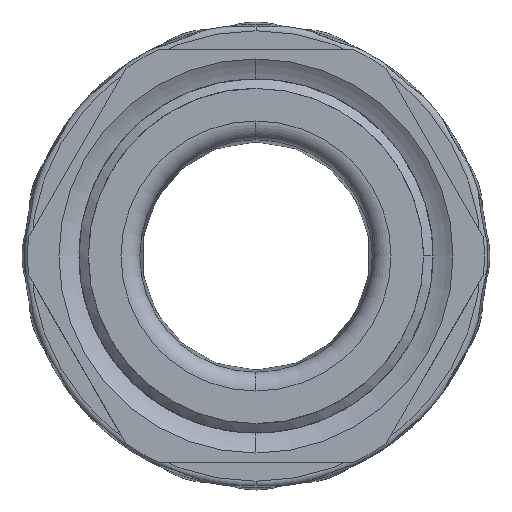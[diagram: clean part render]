
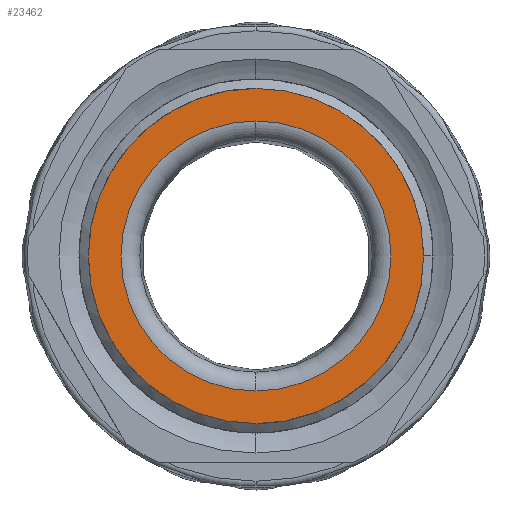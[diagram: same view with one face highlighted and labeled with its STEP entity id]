
A CAD part, front view. The second image highlights one B-rep face of the part: STEP entity #23462.
In plain terms, the highlighted planar face has unit normal (0, -1, 0).
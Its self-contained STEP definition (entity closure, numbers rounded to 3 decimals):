
#459 = CARTESIAN_POINT ( 'NONE',  ( 0., 0., 0. ) ) ;
#557 = AXIS2_PLACEMENT_3D ( 'NONE', #26537, #6666, #24199 ) ;
#762 = ORIENTED_EDGE ( 'NONE', *, *, #12268, .T. ) ;
#1334 = VERTEX_POINT ( 'NONE', #10140 ) ;
#1737 = CARTESIAN_POINT ( 'NONE',  ( 0., 0., 10.789 ) ) ;
#2383 = DIRECTION ( 'NONE',  ( 0., 0., -1. ) ) ;
#3277 = CIRCLE ( 'NONE', #26113, 13.39 ) ;
#3705 = FACE_OUTER_BOUND ( 'NONE', #8459, .T. ) ;
#5284 = EDGE_CURVE ( 'NONE', #1334, #19894, #25034, .T. ) ;
#5352 = DIRECTION ( 'NONE',  ( 0., 0., -1. ) ) ;
#5880 = AXIS2_PLACEMENT_3D ( 'NONE', #459, #11458, #2383 ) ;
#6159 = VERTEX_POINT ( 'NONE', #1737 ) ;
#6666 = DIRECTION ( 'NONE',  ( 0., -1., 0. ) ) ;
#7270 = VERTEX_POINT ( 'NONE', #10728 ) ;
#7985 = DIRECTION ( 'NONE',  ( 0., 0., -1. ) ) ;
#8187 = CARTESIAN_POINT ( 'NONE',  ( 0., 0., 0. ) ) ;
#8459 = EDGE_LOOP ( 'NONE', ( #762, #11591, #15812 ) ) ;
#8884 = CARTESIAN_POINT ( 'NONE',  ( 10.789, 0., 0. ) ) ;
#9396 = AXIS2_PLACEMENT_3D ( 'NONE', #8884, #28627, #24187 ) ;
#9946 = ORIENTED_EDGE ( 'NONE', *, *, #26186, .F. ) ;
#10140 = CARTESIAN_POINT ( 'NONE',  ( 0., 0., -13.39 ) ) ;
#10181 = CARTESIAN_POINT ( 'NONE',  ( 0., 0., 0. ) ) ;
#10728 = CARTESIAN_POINT ( 'NONE',  ( 0., 0., -10.789 ) ) ;
#11458 = DIRECTION ( 'NONE',  ( 0., -1., 0. ) ) ;
#11548 = CIRCLE ( 'NONE', #23111, 10.789 ) ;
#11591 = ORIENTED_EDGE ( 'NONE', *, *, #21611, .T. ) ;
#12268 = EDGE_CURVE ( 'NONE', #19894, #20813, #3277, .T. ) ;
#13857 = DIRECTION ( 'NONE',  ( 0., -1., 0. ) ) ;
#14552 = CARTESIAN_POINT ( 'NONE',  ( 13.39, 0., 0. ) ) ;
#14615 = DIRECTION ( 'NONE',  ( 0., -1., 0. ) ) ;
#15812 = ORIENTED_EDGE ( 'NONE', *, *, #5284, .T. ) ;
#17549 = CARTESIAN_POINT ( 'NONE',  ( 0., 0., 13.39 ) ) ;
#19463 = AXIS2_PLACEMENT_3D ( 'NONE', #10181, #21135, #7985 ) ;
#19531 = CIRCLE ( 'NONE', #5880, 10.789 ) ;
#19792 = EDGE_LOOP ( 'NONE', ( #25764, #9946 ) ) ;
#19894 = VERTEX_POINT ( 'NONE', #14552 ) ;
#20813 = VERTEX_POINT ( 'NONE', #17549 ) ;
#21004 = CIRCLE ( 'NONE', #19463, 13.39 ) ;
#21135 = DIRECTION ( 'NONE',  ( 0., -1., 0. ) ) ;
#21611 = EDGE_CURVE ( 'NONE', #20813, #1334, #21004, .T. ) ;
#23111 = AXIS2_PLACEMENT_3D ( 'NONE', #27075, #13857, #5352 ) ;
#23462 = ADVANCED_FACE ( 'NONE', ( #3705, #25445 ), #28430, .T. ) ;
#23560 = DIRECTION ( 'NONE',  ( 0., 0., -1. ) ) ;
#23585 = EDGE_CURVE ( 'NONE', #7270, #6159, #19531, .T. ) ;
#24187 = DIRECTION ( 'NONE',  ( 0., 0., -1. ) ) ;
#24199 = DIRECTION ( 'NONE',  ( 0., 0., -1. ) ) ;
#25034 = CIRCLE ( 'NONE', #557, 13.39 ) ;
#25445 = FACE_BOUND ( 'NONE', #19792, .T. ) ;
#25764 = ORIENTED_EDGE ( 'NONE', *, *, #23585, .F. ) ;
#26113 = AXIS2_PLACEMENT_3D ( 'NONE', #8187, #14615, #23560 ) ;
#26186 = EDGE_CURVE ( 'NONE', #6159, #7270, #11548, .T. ) ;
#26537 = CARTESIAN_POINT ( 'NONE',  ( 0., 0., 0. ) ) ;
#27075 = CARTESIAN_POINT ( 'NONE',  ( 0., 0., 0. ) ) ;
#28430 = PLANE ( 'NONE',  #9396 ) ;
#28627 = DIRECTION ( 'NONE',  ( 0., -1., 0. ) ) ;
